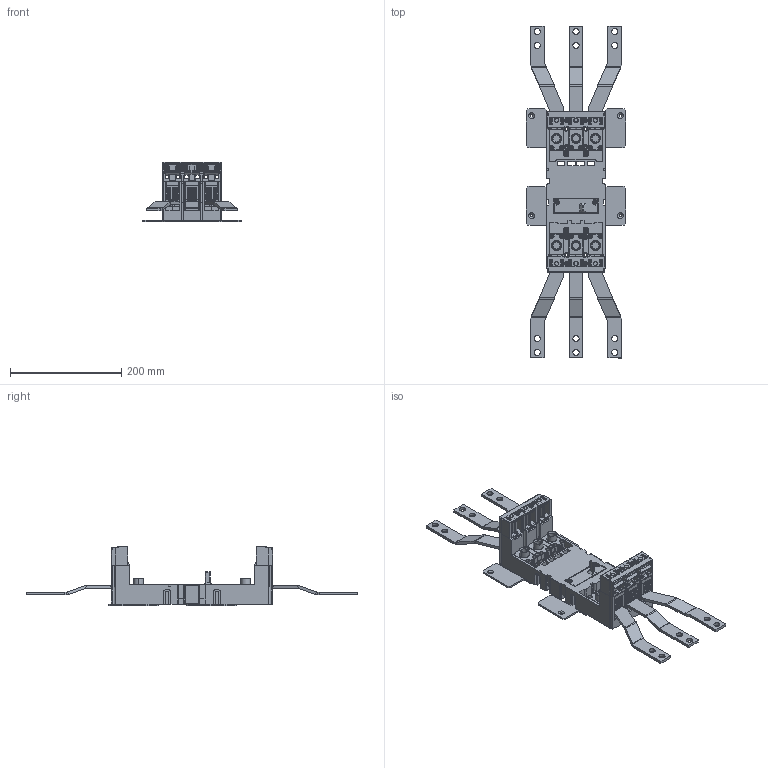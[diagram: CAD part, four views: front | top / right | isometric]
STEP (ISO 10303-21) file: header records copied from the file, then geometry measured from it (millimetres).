
FILE_DESCRIPTION (( 'STEP AP214' ), '1' );
FILE_NAME ('ZO-BD-0250-300__CS-BD-JT75__OD-BD-MT75_zj_02.step', '2013-08-21T05:28:21', ( '' ), ( '' ), 'SwSTEP 2.0', 'SolidWorks 2011', '' );
FILE_SCHEMA (( 'AUTOMOTIVE_DESIGN' ));
Length unit declared in the file: millimetre
Products named in the file (1): ZO-BD-0250-300__CS-BD-JT75__OD-BD-MT75_zj_02
Bounding box: 180 x 598 x 108 mm (x, y, z)
Volume: 1178609 mm3; surface area: 460007.7 mm2
Topology: 11 solids, 36 shells, 5276 faces, 14079 edges, 8883 vertices
Faces by surface type: plane 3020, cylinder 1739, sphere 193, torus 137, cone 130, bspline 57
Entity records: 226222 total; most frequent: CARTESIAN_POINT 37006, ORIENTED_EDGE 27770, DIRECTION 26920, EDGE_CURVE 13885, LINE 9378, VECTOR 9378, VERTEX_POINT 8883, AXIS2_PLACEMENT_3D 8771
